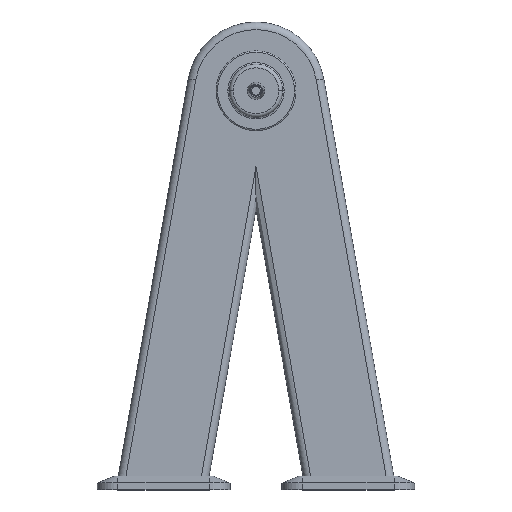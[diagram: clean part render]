
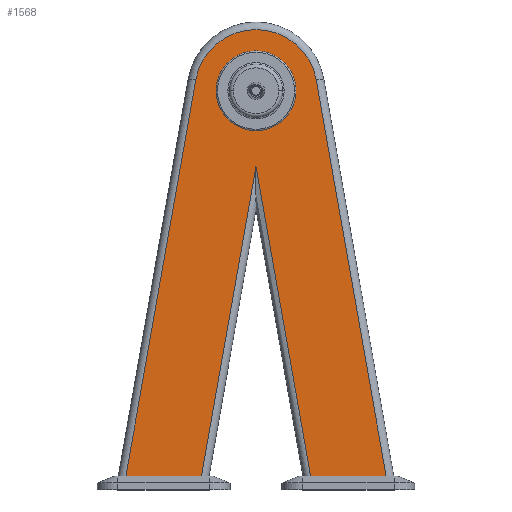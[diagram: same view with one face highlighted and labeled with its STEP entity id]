
A CAD part, top view. The second image highlights one B-rep face of the part: STEP entity #1568.
In plain terms, the highlighted planar face has unit normal (0, 0, 1).
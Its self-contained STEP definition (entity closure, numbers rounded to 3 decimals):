
#9 = DIRECTION ( 'NONE',  ( 0., 0., 1. ) ) ;
#19 = VERTEX_POINT ( 'NONE', #1579 ) ;
#49 = FACE_BOUND ( 'NONE', #2493, .T. ) ;
#130 = LINE ( 'NONE', #743, #1244 ) ;
#155 = CIRCLE ( 'NONE', #2249, 58. ) ;
#173 = AXIS2_PLACEMENT_3D ( 'NONE', #2565, #1751, #398 ) ;
#217 = EDGE_CURVE ( 'NONE', #2400, #1889, #676, .T. ) ;
#229 = LINE ( 'NONE', #2225, #1883 ) ;
#230 = VERTEX_POINT ( 'NONE', #1690 ) ;
#348 = VERTEX_POINT ( 'NONE', #1581 ) ;
#392 = CARTESIAN_POINT ( 'NONE',  ( 87.648, 595.455, 63. ) ) ;
#398 = DIRECTION ( 'NONE',  ( 1., 0., 0. ) ) ;
#674 = DIRECTION ( 'NONE',  ( -0.174, -0.985, 0. ) ) ;
#676 = LINE ( 'NONE', #1728, #1342 ) ;
#712 = DIRECTION ( 'NONE',  ( 0.174, -0.985, 0. ) ) ;
#743 = CARTESIAN_POINT ( 'NONE',  ( 85.562, -14.664, 63. ) ) ;
#777 = EDGE_CURVE ( 'NONE', #1559, #348, #834, .T. ) ;
#806 = ORIENTED_EDGE ( 'NONE', *, *, #777, .T. ) ;
#834 = CIRCLE ( 'NONE', #2170, 89. ) ;
#851 = CARTESIAN_POINT ( 'NONE',  ( -189.116, 20., 63. ) ) ;
#859 = VECTOR ( 'NONE', #1646, 1000. ) ;
#873 = CARTESIAN_POINT ( 'NONE',  ( 0., 20., 63. ) ) ;
#876 = DIRECTION ( 'NONE',  ( -1., 0., 0. ) ) ;
#893 = VERTEX_POINT ( 'NONE', #928 ) ;
#928 = CARTESIAN_POINT ( 'NONE',  ( 58., 580., 63. ) ) ;
#934 = EDGE_CURVE ( 'NONE', #19, #2556, #2650, .T. ) ;
#953 = DIRECTION ( 'NONE',  ( 0., 0., 1. ) ) ;
#1016 = ORIENTED_EDGE ( 'NONE', *, *, #2309, .F. ) ;
#1025 = EDGE_CURVE ( 'NONE', #2520, #1889, #130, .T. ) ;
#1048 = DIRECTION ( 'NONE',  ( 1., 0., 0. ) ) ;
#1052 = DIRECTION ( 'NONE',  ( 0., 0., 1. ) ) ;
#1054 = CARTESIAN_POINT ( 'NONE',  ( 0., 580., 63. ) ) ;
#1068 = ORIENTED_EDGE ( 'NONE', *, *, #2151, .T. ) ;
#1244 = VECTOR ( 'NONE', #712, 1000. ) ;
#1342 = VECTOR ( 'NONE', #1713, 1000. ) ;
#1359 = CARTESIAN_POINT ( 'NONE',  ( 0., 580., 63. ) ) ;
#1408 = CARTESIAN_POINT ( 'NONE',  ( -10.833, 409.147, 63. ) ) ;
#1429 = CARTESIAN_POINT ( 'NONE',  ( 79.45, 20., 63. ) ) ;
#1447 = ORIENTED_EDGE ( 'NONE', *, *, #934, .F. ) ;
#1516 = DIRECTION ( 'NONE',  ( -0.174, 0.985, 0. ) ) ;
#1523 = VECTOR ( 'NONE', #876, 1000. ) ;
#1554 = VECTOR ( 'NONE', #1516, 1000. ) ;
#1559 = VERTEX_POINT ( 'NONE', #392 ) ;
#1568 = ADVANCED_FACE ( 'NONE', ( #49, #1771 ), #2160, .T. ) ;
#1576 = DIRECTION ( 'NONE',  ( 1., 0., 0. ) ) ;
#1579 = CARTESIAN_POINT ( 'NONE',  ( -79.45, 20., 63. ) ) ;
#1581 = CARTESIAN_POINT ( 'NONE',  ( -87.648, 595.455, 63. ) ) ;
#1590 = CIRCLE ( 'NONE', #2533, 58. ) ;
#1646 = DIRECTION ( 'NONE',  ( 0.174, 0.985, 0. ) ) ;
#1690 = CARTESIAN_POINT ( 'NONE',  ( -58., 580., 63. ) ) ;
#1713 = DIRECTION ( 'NONE',  ( -1., 0., 0. ) ) ;
#1724 = EDGE_CURVE ( 'NONE', #893, #230, #155, .T. ) ;
#1728 = CARTESIAN_POINT ( 'NONE',  ( 0., 20., 63. ) ) ;
#1751 = DIRECTION ( 'NONE',  ( 0., 0., 1. ) ) ;
#1771 = FACE_OUTER_BOUND ( 'NONE', #2391, .T. ) ;
#1873 = CARTESIAN_POINT ( 'NONE',  ( 189.116, 20., 63. ) ) ;
#1883 = VECTOR ( 'NONE', #674, 1000. ) ;
#1889 = VERTEX_POINT ( 'NONE', #1429 ) ;
#1951 = ORIENTED_EDGE ( 'NONE', *, *, #1724, .F. ) ;
#2151 = EDGE_CURVE ( 'NONE', #2400, #1559, #2675, .T. ) ;
#2160 = PLANE ( 'NONE',  #173 ) ;
#2161 = CARTESIAN_POINT ( 'NONE',  ( 0., 470.583, 63. ) ) ;
#2166 = ORIENTED_EDGE ( 'NONE', *, *, #217, .F. ) ;
#2170 = AXIS2_PLACEMENT_3D ( 'NONE', #1054, #1052, #1048 ) ;
#2205 = ORIENTED_EDGE ( 'NONE', *, *, #2243, .T. ) ;
#2225 = CARTESIAN_POINT ( 'NONE',  ( -194.037, -7.91, 63. ) ) ;
#2243 = EDGE_CURVE ( 'NONE', #348, #2556, #229, .T. ) ;
#2249 = AXIS2_PLACEMENT_3D ( 'NONE', #1359, #9, #1576 ) ;
#2257 = CARTESIAN_POINT ( 'NONE',  ( 0., 580., 63. ) ) ;
#2309 = EDGE_CURVE ( 'NONE', #230, #893, #1590, .T. ) ;
#2376 = EDGE_CURVE ( 'NONE', #19, #2520, #2576, .T. ) ;
#2391 = EDGE_LOOP ( 'NONE', ( #1447, #2688, #2428, #2166, #1068, #806, #2205 ) ) ;
#2400 = VERTEX_POINT ( 'NONE', #1873 ) ;
#2428 = ORIENTED_EDGE ( 'NONE', *, *, #1025, .T. ) ;
#2460 = DIRECTION ( 'NONE',  ( 1., 0., 0. ) ) ;
#2493 = EDGE_LOOP ( 'NONE', ( #1016, #1951 ) ) ;
#2520 = VERTEX_POINT ( 'NONE', #2161 ) ;
#2533 = AXIS2_PLACEMENT_3D ( 'NONE', #2257, #953, #2460 ) ;
#2556 = VERTEX_POINT ( 'NONE', #851 ) ;
#2565 = CARTESIAN_POINT ( 'NONE',  ( 0., 580., 63. ) ) ;
#2576 = LINE ( 'NONE', #1408, #859 ) ;
#2650 = LINE ( 'NONE', #873, #1523 ) ;
#2675 = LINE ( 'NONE', #2785, #1554 ) ;
#2688 = ORIENTED_EDGE ( 'NONE', *, *, #2376, .T. ) ;
#2785 = CARTESIAN_POINT ( 'NONE',  ( 87.648, 595.455, 63. ) ) ;
